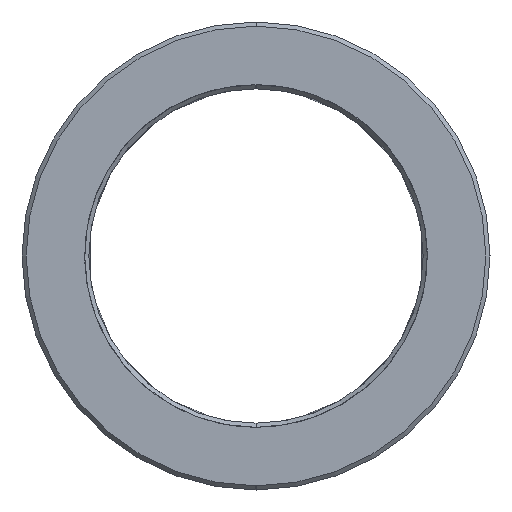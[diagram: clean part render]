
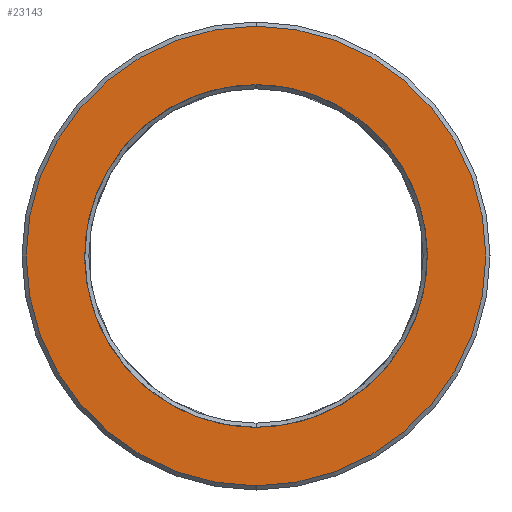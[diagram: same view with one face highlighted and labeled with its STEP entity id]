
A CAD part, left-side view. The second image highlights one B-rep face of the part: STEP entity #23143.
In plain terms, the highlighted planar face has unit normal (1, 0, 0).
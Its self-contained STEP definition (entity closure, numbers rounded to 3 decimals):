
#23060=CARTESIAN_POINT('Axis2P3D Location',(0.,0.,0.)) ;
#23065=CARTESIAN_POINT('Axis2P3D Location',(0.,0.,0.)) ;
#23069=CARTESIAN_POINT('Vertex',(0.,0.,-27.5)) ;
#23071=CARTESIAN_POINT('Vertex',(0.,0.,27.5)) ;
#23074=CARTESIAN_POINT('Axis2P3D Location',(0.,0.,0.)) ;
#23084=CARTESIAN_POINT('Control Point',(0.,0.,20.5)) ;
#23085=CARTESIAN_POINT('Control Point',(0.,1.996,20.5)) ;
#23086=CARTESIAN_POINT('Control Point',(0.,3.993,20.257)) ;
#23087=CARTESIAN_POINT('Control Point',(0.,5.949,19.771)) ;
#23088=CARTESIAN_POINT('Control Point',(0.,9.705,18.332)) ;
#23089=CARTESIAN_POINT('Control Point',(0.,13.007,16.035)) ;
#23090=CARTESIAN_POINT('Control Point',(0.,14.509,14.69)) ;
#23091=CARTESIAN_POINT('Control Point',(0.,17.155,11.661)) ;
#23092=CARTESIAN_POINT('Control Point',(0.,18.998,8.086)) ;
#23093=CARTESIAN_POINT('Control Point',(0.,19.696,6.194)) ;
#23094=CARTESIAN_POINT('Control Point',(0.,20.617,2.279)) ;
#23095=CARTESIAN_POINT('Control Point',(0.,20.573,-1.743)) ;
#23096=CARTESIAN_POINT('Control Point',(0.,20.305,-3.741)) ;
#23097=CARTESIAN_POINT('Control Point',(0.,19.288,-7.633)) ;
#23098=CARTESIAN_POINT('Control Point',(0.,17.367,-11.166)) ;
#23099=CARTESIAN_POINT('Control Point',(0.,16.195,-12.807)) ;
#23100=CARTESIAN_POINT('Control Point',(0.,13.475,-15.77)) ;
#23101=CARTESIAN_POINT('Control Point',(0.,10.124,-17.994)) ;
#23102=CARTESIAN_POINT('Control Point',(0.,8.32,-18.896)) ;
#23103=CARTESIAN_POINT('Control Point',(0.,5.568,-19.873)) ;
#23104=CARTESIAN_POINT('Control Point',(0.,2.705,-20.351)) ;
#23105=CARTESIAN_POINT('Control Point',(0.,1.806,-20.45)) ;
#23106=CARTESIAN_POINT('Control Point',(0.,0.903,-20.5)) ;
#23107=CARTESIAN_POINT('Control Point',(0.,0.,-20.5)) ;
#23108=CARTESIAN_POINT('Vertex',(0.,0.,20.5)) ;
#23110=CARTESIAN_POINT('Vertex',(0.,0.,-20.5)) ;
#23114=CARTESIAN_POINT('Control Point',(0.,0.,-20.5)) ;
#23115=CARTESIAN_POINT('Control Point',(0.,-1.996,-20.5)) ;
#23116=CARTESIAN_POINT('Control Point',(0.,-3.993,-20.257)) ;
#23117=CARTESIAN_POINT('Control Point',(0.,-5.949,-19.771)) ;
#23118=CARTESIAN_POINT('Control Point',(0.,-9.705,-18.332)) ;
#23119=CARTESIAN_POINT('Control Point',(0.,-13.007,-16.035)) ;
#23120=CARTESIAN_POINT('Control Point',(0.,-14.509,-14.69)) ;
#23121=CARTESIAN_POINT('Control Point',(0.,-17.155,-11.661)) ;
#23122=CARTESIAN_POINT('Control Point',(0.,-18.998,-8.086)) ;
#23123=CARTESIAN_POINT('Control Point',(0.,-19.696,-6.194)) ;
#23124=CARTESIAN_POINT('Control Point',(0.,-20.617,-2.279)) ;
#23125=CARTESIAN_POINT('Control Point',(0.,-20.573,1.743)) ;
#23126=CARTESIAN_POINT('Control Point',(0.,-20.305,3.741)) ;
#23127=CARTESIAN_POINT('Control Point',(0.,-19.288,7.633)) ;
#23128=CARTESIAN_POINT('Control Point',(0.,-17.367,11.166)) ;
#23129=CARTESIAN_POINT('Control Point',(0.,-16.195,12.807)) ;
#23130=CARTESIAN_POINT('Control Point',(0.,-13.475,15.77)) ;
#23131=CARTESIAN_POINT('Control Point',(0.,-10.124,17.994)) ;
#23132=CARTESIAN_POINT('Control Point',(0.,-8.32,18.896)) ;
#23133=CARTESIAN_POINT('Control Point',(0.,-5.568,19.873)) ;
#23134=CARTESIAN_POINT('Control Point',(0.,-2.705,20.351)) ;
#23135=CARTESIAN_POINT('Control Point',(0.,-1.806,20.45)) ;
#23136=CARTESIAN_POINT('Control Point',(0.,-0.903,20.5)) ;
#23137=CARTESIAN_POINT('Control Point',(0.,0.,20.5)) ;
#23061=DIRECTION('Axis2P3D Direction',(1.,0.,0.)) ;
#23062=DIRECTION('Axis2P3D XDirection',(0.,1.,0.)) ;
#23066=DIRECTION('Axis2P3D Direction',(1.,0.,0.)) ;
#23075=DIRECTION('Axis2P3D Direction',(1.,0.,0.)) ;
#23063=AXIS2_PLACEMENT_3D('Plane Axis2P3D',#23060,#23061,#23062) ;
#23067=AXIS2_PLACEMENT_3D('Circle Axis2P3D',#23065,#23066,$) ;
#23076=AXIS2_PLACEMENT_3D('Circle Axis2P3D',#23074,#23075,$) ;
#23080=ORIENTED_EDGE('',*,*,#23073,.T.) ;
#23081=ORIENTED_EDGE('',*,*,#23078,.T.) ;
#23140=ORIENTED_EDGE('',*,*,#23112,.T.) ;
#23141=ORIENTED_EDGE('',*,*,#23138,.T.) ;
#23142=FACE_BOUND('',#23139,.T.) ;
#23143=ADVANCED_FACE('MANIFOLD_SOLID_BREP #10625',(#23082,#23142),#23064,.T.) ;
#23083=B_SPLINE_CURVE_WITH_KNOTS('',5,(#23084,#23085,#23086,#23087,#23088,#23089,#23090,#23091,#23092,#23093,#23094,#23095,#23096,#23097,#23098,#23099,#23100,#23101,#23102,#23103,#23104,#23105,#23106,#23107),.UNSPECIFIED.,.F.,.U.,(6,3,3,3,3,3,3,6),(0.,14.116,28.232,42.347,56.463,70.579,84.695,91.078),.UNSPECIFIED.) ;
#23113=B_SPLINE_CURVE_WITH_KNOTS('',5,(#23114,#23115,#23116,#23117,#23118,#23119,#23120,#23121,#23122,#23123,#23124,#23125,#23126,#23127,#23128,#23129,#23130,#23131,#23132,#23133,#23134,#23135,#23136,#23137),.UNSPECIFIED.,.F.,.U.,(6,3,3,3,3,3,3,6),(0.,14.116,28.232,42.347,56.463,70.579,84.695,91.078),.UNSPECIFIED.) ;
#23068=CIRCLE('generated circle',#23067,27.5) ;
#23077=CIRCLE('generated circle',#23076,27.5) ;
#23073=EDGE_CURVE('',#23070,#23072,#23068,.T.) ;
#23078=EDGE_CURVE('',#23072,#23070,#23077,.T.) ;
#23112=EDGE_CURVE('',#23109,#23111,#23083,.T.) ;
#23138=EDGE_CURVE('',#23111,#23109,#23113,.T.) ;
#23079=EDGE_LOOP('',(#23080,#23081)) ;
#23139=EDGE_LOOP('',(#23140,#23141)) ;
#23082=FACE_OUTER_BOUND('',#23079,.T.) ;
#23064=PLANE('Plane',#23063) ;
#23070=VERTEX_POINT('',#23069) ;
#23072=VERTEX_POINT('',#23071) ;
#23109=VERTEX_POINT('',#23108) ;
#23111=VERTEX_POINT('',#23110) ;
